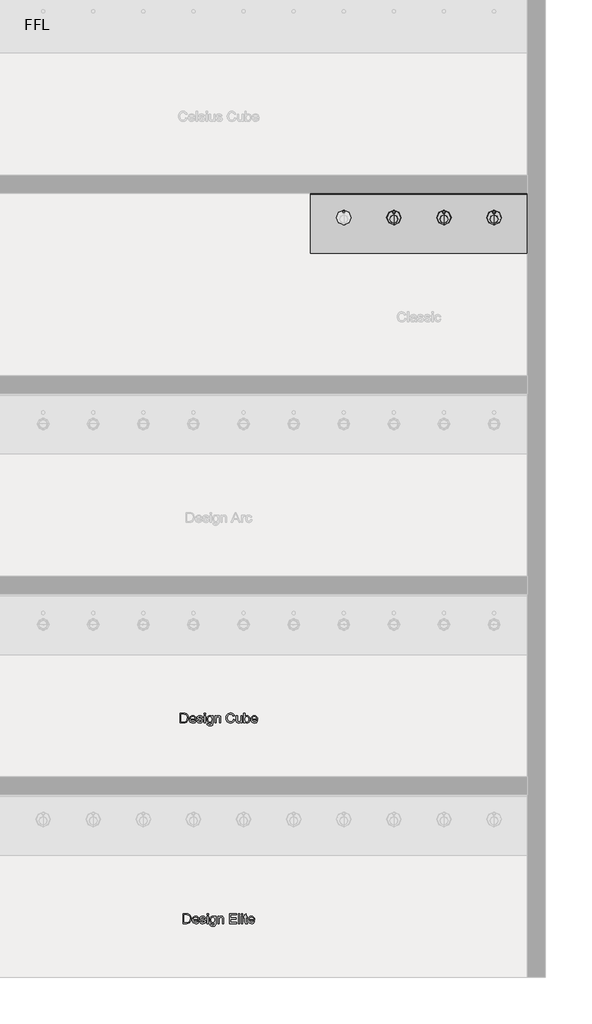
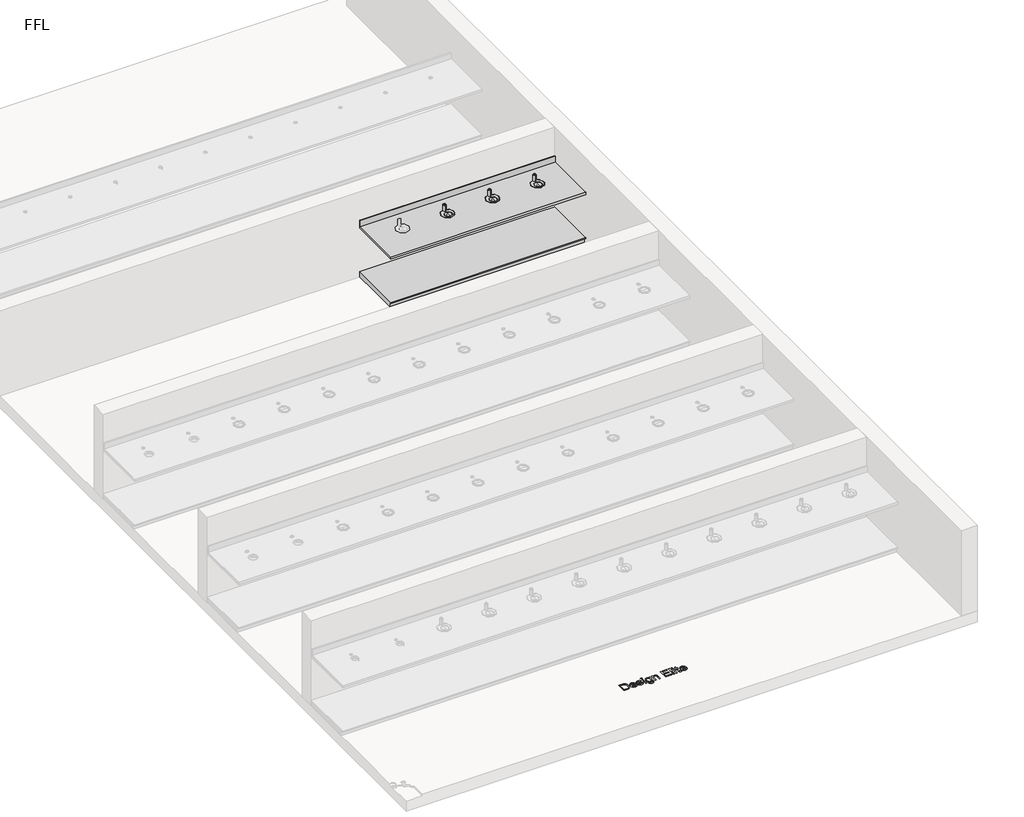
# One storey, part 5 of 6: 3 flow terminals, 2 furniture elements, 2 proxies.
"""IFC4 building model written with IfcOpenShell, lengths in millimetres."""

from ifc_helpers import new_model, si_unit, frame, origin, origin_with_axes, place, context, project, spatial, polyline, circle_curve, outline, extrude, transform, mapped, element, save
from ifc_brep_helpers import plane_surface, revolved_surface, advanced_brep
from components import bright_chrome_13082571, generic_plinth_900mm_89497062

model = new_model("IFC4")

# Units and contexts
model_context = context("Model", 3, world=origin())
ifc_project = project(units=[si_unit("LENGTHUNIT", "METRE", prefix="MILLI")], contexts=[model_context])

# Site, building, storey
site = spatial("IfcSite", under=ifc_project)
building = spatial("IfcBuilding", under=site)
storey = spatial("IfcBuildingStorey", under=building, Name="FFL", Elevation=0.0)

# Proxies
placement = place(None, origin())
element("IfcBuildingElementProxy", 1, Name="150mm Arial", ObjectType="150mm Arial", at=placement, inside=storey, context=model_context, shape_type="SweptSolid", body=[
    extrude(outline(polyline([(-2919.3501351, -75.6314289), (-2919.3501351, 72.0608788), (-2868.4006159, 72.0608788), (-2842.0424428, 69.9334749), (-2820.335712, 59.3685711), (-2810.1223707, 48.1185711), (-2802.8477313, 34.1281865), (-2798.4937649, 17.6678499), (-2797.0424428, -0.9920059), (-2800.9727313, -30.7936885), (-2811.0688851, -52.302102), (-2824.554462, -65.6975347), (-2842.2047024, -73.1073905), (-2865.9486928, -75.6314289), (-2919.3501351, -75.6314289)]), holes=[polyline([(-2900.8885967, -57.1698905), (-2868.2203274, -57.1698905), (-2844.4583082, -54.5016212), (-2830.7563851, -46.9655635), (-2819.524414, -28.630227), (-2815.5039813, -0.7035443), (-2817.4736327, 19.416648), (-2823.382587, 34.2724172), (-2832.1130558, 44.4767441), (-2842.5472505, 50.6426095), (-2868.7251351, 53.5993403), (-2900.8885967, 53.5993403), (-2900.8885967, -57.1698905)])]), origin_with_axes(), (0.0, 0.0, 1.0), 5.0),
    extrude(outline(polyline([(-2698.0280197, -43.3237366), (-2679.9270582, -45.6314289), (-2686.4489933, -59.270251), (-2696.8561447, -69.4655635), (-2710.9141375, -75.8207318), (-2728.3885967, -77.9391212), (-2750.0502553, -74.2837727), (-2766.7179236, -63.317727), (-2777.3459284, -45.7531236), (-2780.8885967, -22.302102), (-2777.3098707, 1.9376816), (-2766.5736928, 20.0656865), (-2750.1313851, 31.369773), (-2729.4342697, 35.1378018), (-2709.3816856, 31.3787874), (-2693.3585486, 20.1017441), (-2682.8522385, 2.009797), (-2679.3501351, -22.1939289), (-2679.4583082, -27.1698905), (-2762.4270582, -27.1698905), (-2759.2314452, -40.989001), (-2751.8080678, -51.1482559), (-2741.094426, -57.395251), (-2728.0280197, -59.4775828), (-2709.9270582, -55.6194097), (-2698.0280197, -43.3237366)]), holes=[polyline([(-2762.4270582, -8.708352), (-2697.8116736, -8.708352), (-2700.3086688, 1.0452538), (-2705.2035005, 8.0224172), (-2715.9667217, 14.5128018), (-2729.5063851, 16.6762634), (-2741.9507962, 14.9500014), (-2752.2407601, 9.7712153), (-2759.3937048, 1.6987994), (-2762.4270582, -8.708352)])]), origin_with_axes(), (0.0, 0.0, 1.0), 5.0),
    extrude(outline(polyline([(-2667.8116736, -43.3237366), (-2649.3501351, -41.0160443), (-2646.4384765, -48.9126789), (-2640.804462, -54.7179674), (-2621.2251351, -59.4775828), (-2602.4030197, -55.114602), (-2596.273212, -44.8742174), (-2602.4390774, -36.5809482), (-2621.4414813, -31.3165251), (-2649.241962, -22.2840732), (-2661.3753755, -11.7371982), (-2665.5039813, 3.1546288), (-2662.1866736, 16.9106384), (-2653.1361928, 27.4214557), (-2641.399414, 32.8841961), (-2625.5160005, 35.1378018), (-2603.0520582, 31.5140038), (-2588.773212, 21.7063115), (-2582.4270582, 5.1378018), (-2600.8885967, 2.8301095), (-2607.8297024, 13.0164076), (-2624.0736928, 16.6762634), (-2641.741962, 13.1786672), (-2647.0424428, 5.0296288), (-2644.8429236, -0.3429674), (-2637.9559043, -4.4174866), (-2622.054462, -8.3477751), (-2594.9571063, -17.0376789), (-2582.3729717, -26.8814289), (-2577.8116736, -42.927102), (-2583.1662409, -60.5953712), (-2598.616962, -73.4138809), (-2621.477539, -77.9391212), (-2640.0923226, -75.7576309), (-2653.6770582, -69.2131597), (-2662.7455678, -58.3778232), (-2667.8116736, -43.3237366)])), origin_with_axes(), (0.0, 0.0, 1.0), 5.0),
    extrude(outline(polyline([(-2557.0424428, 53.5993403), (-2557.0424428, 72.0608788), (-2538.5809043, 72.0608788), (-2538.5809043, 53.5993403), (-2557.0424428, 53.5993403)])), origin_with_axes(), (0.0, 0.0, 1.0), 5.0),
    extrude(outline(polyline([(-2557.0424428, -75.6314289), (-2557.0424428, 32.8301095), (-2538.5809043, 32.8301095), (-2538.5809043, -75.6314289), (-2557.0424428, -75.6314289)])), origin_with_axes(), (0.0, 0.0, 1.0), 5.0),
    extrude(outline(polyline([(-2515.5039813, -84.8621982), (-2497.0424428, -87.1698905), (-2491.0568659, -96.9054674), (-2473.1361928, -101.0160443), (-2454.241962, -96.364602), (-2445.227539, -83.3117174), (-2443.9655197, -61.7852751), (-2456.9643178, -72.1698905), (-2472.8116736, -75.6314289), (-2491.8456279, -71.6019818), (-2506.038837, -59.5136405), (-2514.8684644, -41.7912847), (-2517.8116736, -20.8597943), (-2512.5292217, 7.7519845), (-2506.0658803, 19.3670687), (-2497.2407601, 27.9983788), (-2486.3558442, 33.3529461), (-2473.7131159, 35.1378018), (-2457.2437649, 31.0993403), (-2443.9655197, 18.9839557), (-2443.9655197, 32.8301095), (-2425.5039813, 32.8301095), (-2425.5039813, -60.8117174), (-2426.7660005, -82.4328111), (-2430.5520582, -96.6710924), (-2437.0739933, -106.1137006), (-2446.5436447, -113.3477751), (-2458.7536808, -117.9451309), (-2473.4967697, -119.4775828), (-2490.6737529, -117.3186285), (-2504.1998947, -110.8417655), (-2512.8762769, -100.028965), (-2515.5039813, -84.8621982)]), holes=[polyline([(-2499.3501351, -19.5977751), (-2497.3804837, -36.5313688), (-2491.4715293, -48.1734962), (-2482.5878154, -54.9207919), (-2471.6938851, -57.1698905), (-2460.8810846, -54.9343135), (-2451.9522986, -48.2275828), (-2445.9622144, -36.7341934), (-2443.9655197, -20.1386405), (-2446.0208082, -4.1335323), (-2452.1866736, 7.3914076), (-2461.2461688, 14.3550494), (-2471.9823467, 16.6762634), (-2482.5247144, 14.3911071), (-2491.3633563, 7.5356384), (-2497.3534404, -3.8180275), (-2499.3501351, -19.5977751)])]), origin_with_axes(), (0.0, 0.0, 1.0), 5.0),
    extrude(outline(polyline([(-2397.8116736, -75.6314289), (-2397.8116736, 32.8301095), (-2379.3501351, 32.8301095), (-2379.3501351, 17.6858788), (-2365.2335486, 30.7748211), (-2345.960712, 35.1378018), (-2328.5268178, 31.6221768), (-2316.6277793, 22.3914076), (-2311.0929236, 8.8156865), (-2310.1193659, -9.0328712), (-2310.1193659, -75.6314289), (-2328.5809043, -75.6314289), (-2328.5809043, -11.520852), (-2330.7083082, 4.8132826), (-2338.226337, 13.4490999), (-2350.9006159, 16.6762634), (-2361.7134164, 14.8643643), (-2370.930664, 9.4286672), (-2377.2452673, -1.0731357), (-2379.3501351, -18.083352), (-2379.3501351, -75.6314289), (-2397.8116736, -75.6314289)])), origin_with_axes(), (0.0, 0.0, 1.0), 5.0),
    extrude(outline(polyline([(-2120.8885967, -23.1314289), (-2102.4270582, -27.8910443), (-2110.945688, -49.403965), (-2124.3140774, -65.1206116), (-2141.8741736, -74.7344938), (-2162.9679236, -77.9391212), (-2184.3816856, -75.5142414), (-2201.3873947, -68.239602), (-2214.4222505, -56.3676068), (-2223.9234524, -40.1506597), (-2229.7242337, -21.0851549), (-2231.6578274, -0.6674866), (-2229.4718298, 20.8679701), (-2222.913837, 39.4647249), (-2212.3263971, 54.5323331), (-2198.0520582, 65.4803499), (-2181.1229717, 72.1465158), (-2162.571289, 74.3685711), (-2142.3294019, 71.4929701), (-2125.5941255, 62.8661672), (-2112.8882962, 49.0200134), (-2104.7347505, 30.4863595), (-2123.196289, 26.0873211), (-2129.5965293, 39.5503619), (-2138.3405197, 48.7856384), (-2149.5364332, 54.126684), (-2163.2924428, 55.9070326), (-2179.148813, 53.932874), (-2192.1746543, 48.010398), (-2202.0589692, 38.7615999), (-2208.4907601, 26.8084749), (-2213.196289, -0.6314289), (-2207.6253755, -32.4343135), (-2200.5039813, -44.310816), (-2190.2816255, -52.7528232), (-2178.0265173, -57.7963929), (-2164.8068659, -59.4775828), (-2149.3967096, -57.1879193), (-2136.555664, -50.3189289), (-2126.8606519, -38.942727), (-2120.8885967, -23.1314289)])), origin_with_axes(), (0.0, 0.0, 1.0), 5.0),
    extrude(outline(polyline([(-2010.1193659, -75.6314289), (-2010.1193659, -56.989602), (-2024.5785005, -72.7017414), (-2043.4366736, -77.9391212), (-2060.7984524, -74.2612366), (-2072.7696063, -65.0304674), (-2078.2684043, -51.4367174), (-2079.3501351, -34.2732559), (-2079.3501351, 32.8301095), (-2060.8885967, 32.8301095), (-2060.8885967, -25.583352), (-2059.7708082, -44.4054674), (-2052.4691255, -55.4571501), (-2038.7131159, -59.4775828), (-2023.2984524, -55.3670059), (-2013.1121543, -44.1710924), (-2010.1193659, -23.6001789), (-2010.1193659, 32.8301095), (-1991.6578274, 32.8301095), (-1991.6578274, -75.6314289), (-2010.1193659, -75.6314289)])), origin_with_axes(), (0.0, 0.0, 1.0), 5.0),
    extrude(outline(polyline([(-1947.8116736, -75.6314289), (-1966.273212, -75.6314289), (-1966.273212, 72.0608788), (-1947.8116736, 72.0608788), (-1947.8116736, 17.2892441), (-1934.8849909, 30.6756624), (-1918.821289, 35.1378018), (-1900.3236928, 31.1173691), (-1885.9727313, 19.8132826), (-1877.1566255, 2.2351576), (-1873.9655197, -19.7780635), (-1877.2693058, -44.4234962), (-1887.180664, -62.7588328), (-1901.7254356, -74.1440491), (-1918.929462, -77.9391212), (-1935.3447265, -73.0442895), (-1947.8116736, -58.3597943), (-1947.8116736, -75.6314289)]), holes=[polyline([(-1947.8116736, -20.6434482), (-1946.5496543, -36.0400828), (-1942.7635967, -46.4607559), (-1933.0911207, -56.223376), (-1920.5160005, -59.4775828), (-1909.8609524, -57.0797462), (-1900.7563851, -49.8862366), (-1894.5093899, -37.942126), (-1892.4270582, -21.2924866), (-1894.4237529, -4.3994578), (-1900.413837, 7.4094365), (-1909.23445, 14.3595566), (-1919.7227313, 16.6762634), (-1930.3777793, 14.2784268), (-1939.4823467, 7.0849172), (-1945.7293418, -4.6428472), (-1947.8116736, -20.6434482)])]), origin_with_axes(), (0.0, 0.0, 1.0), 5.0),
    extrude(outline(polyline([(-1777.258789, -43.3237366), (-1759.1578274, -45.6314289), (-1765.6797625, -59.270251), (-1776.086914, -69.4655635), (-1790.1449067, -75.8207318), (-1807.6193659, -77.9391212), (-1829.2810245, -74.2837727), (-1845.9486928, -63.317727), (-1856.5766976, -45.7531236), (-1860.1193659, -22.302102), (-1856.5406399, 1.9376816), (-1845.804462, 20.0656865), (-1829.3621543, 31.369773), (-1808.665039, 35.1378018), (-1788.6124548, 31.3787874), (-1772.5893178, 20.1017441), (-1762.0830077, 2.009797), (-1758.5809043, -22.1939289), (-1758.6890774, -27.1698905), (-1841.6578274, -27.1698905), (-1838.4622144, -40.989001), (-1831.038837, -51.1482559), (-1820.3251952, -57.395251), (-1807.258789, -59.4775828), (-1789.1578274, -55.6194097), (-1777.258789, -43.3237366)]), holes=[polyline([(-1841.6578274, -8.708352), (-1777.0424428, -8.708352), (-1779.539438, 1.0452538), (-1784.4342697, 8.0224172), (-1795.1974909, 14.5128018), (-1808.7371543, 16.6762634), (-1821.1815654, 14.9500014), (-1831.4715293, 9.7712153), (-1838.6244741, 1.6987994), (-1841.6578274, -8.708352)])]), origin_with_axes(), (0.0, 0.0, 1.0), 5.0),
])
element("IfcBuildingElementProxy", 2, Name="150mm Arial", ObjectType="150mm Arial", at=placement, inside=storey, context=model_context, shape_type="SweptSolid", body=[
    extrude(outline(polyline([(-2875.5039813, -3075.6314289), (-2875.5039813, -2927.9391212), (-2824.554462, -2927.9391212), (-2798.196289, -2930.0665251), (-2776.4895582, -2940.6314289), (-2766.2762168, -2951.8814289), (-2759.0015774, -2965.8718135), (-2754.6476111, -2982.3321501), (-2753.196289, -3000.9920059), (-2757.1265774, -3030.7936885), (-2767.2227313, -3052.302102), (-2780.7083082, -3065.6975347), (-2798.3585486, -3073.1073905), (-2822.102539, -3075.6314289), (-2875.5039813, -3075.6314289)]), holes=[polyline([(-2857.0424428, -3057.1698905), (-2824.3741736, -3057.1698905), (-2800.6121543, -3054.5016212), (-2786.9102313, -3046.9655635), (-2775.6782601, -3028.630227), (-2771.6578274, -3000.7035443), (-2773.6274789, -2980.583352), (-2779.5364332, -2965.7275828), (-2788.2669019, -2955.5232559), (-2798.7010967, -2949.3573905), (-2824.8789813, -2946.4006597), (-2857.0424428, -2946.4006597), (-2857.0424428, -3057.1698905)])]), origin_with_axes(), (0.0, 0.0, 1.0), 5.0),
    extrude(outline(polyline([(-2654.1818659, -3043.3237366), (-2636.0809043, -3045.6314289), (-2642.6028394, -3059.270251), (-2653.0099909, -3069.4655635), (-2667.0679837, -3075.8207318), (-2684.5424428, -3077.9391212), (-2706.2041015, -3074.2837727), (-2722.8717697, -3063.317727), (-2733.4997745, -3045.7531236), (-2737.0424428, -3022.302102), (-2733.4637168, -2998.0623184), (-2722.727539, -2979.9343135), (-2706.2852313, -2968.630227), (-2685.5881159, -2964.8621982), (-2665.5355317, -2968.6212126), (-2649.5123947, -2979.8982559), (-2639.0060846, -2997.990203), (-2635.5039813, -3022.1939289), (-2635.6121543, -3027.1698905), (-2718.5809043, -3027.1698905), (-2715.3852914, -3040.989001), (-2707.961914, -3051.1482559), (-2697.2482721, -3057.395251), (-2684.1818659, -3059.4775828), (-2666.0809043, -3055.6194097), (-2654.1818659, -3043.3237366)]), holes=[polyline([(-2718.5809043, -3008.708352), (-2653.9655197, -3008.708352), (-2656.4625149, -2998.9547462), (-2661.3573467, -2991.9775828), (-2672.1205678, -2985.4871982), (-2685.6602313, -2983.3237366), (-2698.1046423, -2985.0499986), (-2708.3946063, -2990.2287847), (-2715.547551, -2998.3012006), (-2718.5809043, -3008.708352)])]), origin_with_axes(), (0.0, 0.0, 1.0), 5.0),
    extrude(outline(polyline([(-2623.9655197, -3043.3237366), (-2605.5039813, -3041.0160443), (-2602.5923226, -3048.9126789), (-2596.9583082, -3054.7179674), (-2577.3789813, -3059.4775828), (-2558.5568659, -3055.114602), (-2552.4270582, -3044.8742174), (-2558.5929236, -3036.5809482), (-2577.5953274, -3031.3165251), (-2605.3958082, -3022.2840732), (-2617.5292217, -3011.7371982), (-2621.6578274, -2996.8453712), (-2618.3405197, -2983.0893616), (-2609.290039, -2972.5785443), (-2597.5532601, -2967.1158039), (-2581.6698467, -2964.8621982), (-2559.2059043, -2968.4859962), (-2544.9270582, -2978.2936885), (-2538.5809043, -2994.8621982), (-2557.0424428, -2997.1698905), (-2563.9835486, -2986.9835924), (-2580.227539, -2983.3237366), (-2597.8958082, -2986.8213328), (-2603.196289, -2994.9703712), (-2600.9967697, -3000.3429674), (-2594.1097505, -3004.4174866), (-2578.2083082, -3008.3477751), (-2551.1109524, -3017.0376789), (-2538.5268178, -3026.8814289), (-2533.9655197, -3042.927102), (-2539.320087, -3060.5953712), (-2554.7708082, -3073.4138809), (-2577.6313851, -3077.9391212), (-2596.2461688, -3075.7576309), (-2609.8309043, -3069.2131597), (-2618.899414, -3058.3778232), (-2623.9655197, -3043.3237366)])), origin_with_axes(), (0.0, 0.0, 1.0), 5.0),
    extrude(outline(polyline([(-2513.196289, -2946.4006597), (-2513.196289, -2927.9391212), (-2494.7347505, -2927.9391212), (-2494.7347505, -2946.4006597), (-2513.196289, -2946.4006597)])), origin_with_axes(), (0.0, 0.0, 1.0), 5.0),
    extrude(outline(polyline([(-2513.196289, -3075.6314289), (-2513.196289, -2967.1698905), (-2494.7347505, -2967.1698905), (-2494.7347505, -3075.6314289), (-2513.196289, -3075.6314289)])), origin_with_axes(), (0.0, 0.0, 1.0), 5.0),
    extrude(outline(polyline([(-2471.6578274, -3084.8621982), (-2453.196289, -3087.1698905), (-2447.210712, -3096.9054674), (-2429.290039, -3101.0160443), (-2410.3958082, -3096.364602), (-2401.3813851, -3083.3117174), (-2400.1193659, -3061.7852751), (-2413.118164, -3072.1698905), (-2428.9655197, -3075.6314289), (-2447.9994741, -3071.6019818), (-2462.1926832, -3059.5136405), (-2471.0223106, -3041.7912847), (-2473.9655197, -3020.8597943), (-2468.6830678, -2992.2480155), (-2462.2197265, -2980.6329313), (-2453.3946063, -2972.0016212), (-2442.5096904, -2966.6470539), (-2429.866962, -2964.8621982), (-2413.3976111, -2968.9006597), (-2400.1193659, -2981.0160443), (-2400.1193659, -2967.1698905), (-2381.6578274, -2967.1698905), (-2381.6578274, -3060.8117174), (-2382.9198467, -3082.4328111), (-2386.7059043, -3096.6710924), (-2393.2278394, -3106.1137006), (-2402.6974909, -3113.3477751), (-2414.9075269, -3117.9451309), (-2429.6506159, -3119.4775828), (-2446.8275991, -3117.3186285), (-2460.3537409, -3110.8417655), (-2469.0301231, -3100.028965), (-2471.6578274, -3084.8621982)]), holes=[polyline([(-2455.5039813, -3019.5977751), (-2453.5343298, -3036.5313688), (-2447.6253755, -3048.1734962), (-2438.7416616, -3054.9207919), (-2427.8477313, -3057.1698905), (-2417.0349308, -3054.9343135), (-2408.1061447, -3048.2275828), (-2402.1160606, -3036.7341934), (-2400.1193659, -3020.1386405), (-2402.1746543, -3004.1335323), (-2408.3405197, -2992.6085924), (-2417.4000149, -2985.6449506), (-2428.1361928, -2983.3237366), (-2438.6785606, -2985.6088929), (-2447.5172024, -2992.4643616), (-2453.5072866, -3003.8180275), (-2455.5039813, -3019.5977751)])]), origin_with_axes(), (0.0, 0.0, 1.0), 5.0),
    extrude(outline(polyline([(-2353.9655197, -3075.6314289), (-2353.9655197, -2967.1698905), (-2335.5039813, -2967.1698905), (-2335.5039813, -2982.3141212), (-2321.3873947, -2969.2251789), (-2302.1145582, -2964.8621982), (-2284.680664, -2968.3778232), (-2272.7816255, -2977.6085924), (-2267.2467697, -2991.1843135), (-2266.273212, -3009.0328712), (-2266.273212, -3075.6314289), (-2284.7347505, -3075.6314289), (-2284.7347505, -3011.520852), (-2286.8621543, -2995.1867174), (-2294.3801832, -2986.5509001), (-2307.054462, -2983.3237366), (-2317.8672625, -2985.1356357), (-2327.0845101, -2990.5713328), (-2333.3991135, -3001.0731357), (-2335.5039813, -3018.083352), (-2335.5039813, -3075.6314289), (-2353.9655197, -3075.6314289)])), origin_with_axes(), (0.0, 0.0, 1.0), 5.0),
    extrude(outline(polyline([(-2180.8885967, -3075.6314289), (-2180.8885967, -2927.9391212), (-2074.7347505, -2927.9391212), (-2074.7347505, -2946.4006597), (-2162.4270582, -2946.4006597), (-2162.4270582, -2990.2468135), (-2079.3501351, -2990.2468135), (-2079.3501351, -3008.708352), (-2162.4270582, -3008.708352), (-2162.4270582, -3057.1698905), (-2072.4270582, -3057.1698905), (-2072.4270582, -3075.6314289), (-2180.8885967, -3075.6314289)])), origin_with_axes(), (0.0, 0.0, 1.0), 5.0),
    extrude(outline(polyline([(-2047.0424428, -3075.6314289), (-2047.0424428, -2927.9391212), (-2028.5809043, -2927.9391212), (-2028.5809043, -3075.6314289), (-2047.0424428, -3075.6314289)])), origin_with_axes(), (0.0, 0.0, 1.0), 5.0),
    extrude(outline(polyline([(-2000.8885967, -3075.6314289), (-2000.8885967, -2967.1698905), (-1982.4270582, -2967.1698905), (-1982.4270582, -3075.6314289), (-2000.8885967, -3075.6314289)])), origin_with_axes(), (0.0, 0.0, 1.0), 5.0),
    extrude(outline(polyline([(-2000.8885967, -2946.4006597), (-2000.8885967, -2927.9391212), (-1982.4270582, -2927.9391212), (-1982.4270582, -2946.4006597), (-2000.8885967, -2946.4006597)])), origin_with_axes(), (0.0, 0.0, 1.0), 5.0),
    extrude(outline(polyline([(-1915.5039813, -3060.2347943), (-1913.196289, -3076.1722943), (-1927.0063851, -3077.9391212), (-1942.4751351, -3074.8742174), (-1950.1914813, -3066.833352), (-1952.4270582, -3045.8838328), (-1952.4270582, -2985.6314289), (-1966.273212, -2985.6314289), (-1966.273212, -2967.1698905), (-1952.4270582, -2967.1698905), (-1952.4270582, -2940.8117174), (-1933.9655197, -2929.958352), (-1933.9655197, -2967.1698905), (-1915.5039813, -2967.1698905), (-1915.5039813, -2985.6314289), (-1933.9655197, -2985.6314289), (-1933.9655197, -3045.3429674), (-1932.991962, -3054.8621982), (-1929.836914, -3058.2335924), (-1923.5448467, -3059.4775828), (-1915.5039813, -3060.2347943)])), origin_with_axes(), (0.0, 0.0, 1.0), 5.0),
    extrude(outline(polyline([(-1821.1049428, -3043.3237366), (-1803.0039813, -3045.6314289), (-1809.5259164, -3059.270251), (-1819.9330678, -3069.4655635), (-1833.9910606, -3075.8207318), (-1851.4655197, -3077.9391212), (-1873.1271784, -3074.2837727), (-1889.7948467, -3063.317727), (-1900.4228515, -3045.7531236), (-1903.9655197, -3022.302102), (-1900.3867938, -2998.0623184), (-1889.6506159, -2979.9343135), (-1873.2083082, -2968.630227), (-1852.5111928, -2964.8621982), (-1832.4586087, -2968.6212126), (-1816.4354717, -2979.8982559), (-1805.9291616, -2997.990203), (-1802.4270582, -3022.1939289), (-1802.5352313, -3027.1698905), (-1885.5039813, -3027.1698905), (-1882.3083683, -3040.989001), (-1874.8849909, -3051.1482559), (-1864.1713491, -3057.395251), (-1851.1049428, -3059.4775828), (-1833.0039813, -3055.6194097), (-1821.1049428, -3043.3237366)]), holes=[polyline([(-1885.5039813, -3008.708352), (-1820.8885967, -3008.708352), (-1823.3855918, -2998.9547462), (-1828.2804236, -2991.9775828), (-1839.0436447, -2985.4871982), (-1852.5833082, -2983.3237366), (-1865.0277192, -2985.0499986), (-1875.3176832, -2990.2287847), (-1882.4706279, -2998.3012006), (-1885.5039813, -3008.708352)])]), origin_with_axes(), (0.0, 0.0, 1.0), 5.0),
])

# Flow terminals
bright_chrome_shape = bright_chrome_13082571(model_context)
element("IfcFlowTerminal", 3, ObjectType="z_PlumFixt_Zip Australia_Font and Tap Riser : Brushed Chrome", at=placement, inside=storey, context=model_context, shape_type="MappedRepresentation", body=[
    mapped(bright_chrome_shape, transform((279.2647071, 7467.9893304, 900.0), x_axis=(1.0, 0.0, 0.0), y_axis=(0.0, 1.0, 0.0), z_axis=(0.0, 0.0, 1.0))),
])
element("IfcFlowTerminal", 4, ObjectType="z_PlumFixt_Zip Australia_Font and Tap Riser : Gloss Black", at=placement, inside=storey, context=model_context, shape_type="MappedRepresentation", body=[
    mapped(bright_chrome_shape, transform((1029.2647071, 7467.9893304, 900.0), x_axis=(1.0, 0.0, 0.0), y_axis=(0.0, 1.0, 0.0), z_axis=(0.0, 0.0, 1.0))),
])
element("IfcFlowTerminal", 5, ObjectType="z_PlumFixt_Zip Australia_Font and Tap Riser : Matte Black", at=placement, inside=storey, context=model_context, shape_type="MappedRepresentation", body=[
    mapped(bright_chrome_shape, transform((1779.2647071, 7467.9893304, 900.0), x_axis=(1.0, 0.0, 0.0), y_axis=(0.0, 1.0, 0.0), z_axis=(0.0, 0.0, 1.0))),
])

# Furniture
element("IfcFurniture", 6, ObjectType="Counter Top : 900mm Depth", at=placement, inside=storey, context=model_context, shape_type="AdvancedBrep", body=[
    advanced_brep(
    [(-969.7352929, 6948.2393304, 900.0), (2280.2657919, 6948.2393304, 900.0), (2280.2657919, 7829.1893304, 900.0), (-969.7352929, 7829.1893304, 900.0), (1780.2647071, 7407.6212903, 900.0), (1780.2647071, 7515.6212903, 900.0), (1780.2647071, 7550.7393304, 900.0), (1780.2647071, 7585.7393304, 900.0), (1030.2647071, 7407.6212903, 900.0), (1030.2647071, 7515.6212903, 900.0), (1030.2647071, 7550.7393304, 900.0), (1030.2647071, 7585.7393304, 900.0), (280.2647071, 7550.7393304, 900.0), (280.2647071, 7585.7393304, 900.0), (-469.7352929, 7407.6212903, 900.0), (-469.7352929, 7515.6212903, 900.0), (-469.7352929, 7550.7393304, 900.0), (-469.7352929, 7585.7393304, 900.0), (280.2647071, 7407.6212903, 900.0), (280.2647071, 7515.6212903, 900.0), (2280.2657919, 7848.2393304, 860.0), (2280.2657919, 6948.2393304, 860.0), (-969.7352929, 6948.2393304, 860.0), (-969.7352929, 7848.2393304, 860.0), (1780.2647071, 7515.6212903, 860.0), (1780.2647071, 7407.6212903, 860.0), (1780.2647071, 7585.7393304, 860.0), (1780.2647071, 7550.7393304, 860.0), (1030.2647071, 7515.6212903, 860.0), (1030.2647071, 7407.6212903, 860.0), (1030.2647071, 7585.7393304, 860.0), (1030.2647071, 7550.7393304, 860.0), (280.2647071, 7585.7393304, 860.0), (280.2647071, 7550.7393304, 860.0), (-469.7352929, 7515.6212903, 860.0), (-469.7352929, 7407.6212903, 860.0), (-469.7352929, 7585.7393304, 860.0), (-469.7352929, 7550.7393304, 860.0), (280.2647071, 7515.6212903, 860.0), (280.2647071, 7407.6212903, 860.0), (-969.7352929, 7848.2393304, 1001.6), (2280.2657919, 7848.2393304, 1001.6), (-969.7352929, 7829.1893304, 1001.6), (2280.2657919, 7829.1893304, 1001.6)],
    [
        (0, 1),
        (1, 2),
        (2, 3),
        (3, 0),
        (4, 5, circle_curve(frame((1780.2647071, 7461.6212903, 900.0), z_axis=(0.0, 0.0, -1.0), x_axis=(0.0, -1.0, 0.0)), 54.0)),
        (5, 4, circle_curve(frame((1780.2647071, 7461.6212903, 900.0), z_axis=(0.0, 0.0, -1.0), x_axis=(0.0, -1.0, 0.0)), 54.0)),
        (6, 7, circle_curve(frame((1780.2647071, 7568.2393304, 900.0), z_axis=(0.0, 0.0, -1.0), x_axis=(0.0, -1.0, 0.0)), 17.5)),
        (7, 6, circle_curve(frame((1780.2647071, 7568.2393304, 900.0), z_axis=(0.0, 0.0, -1.0), x_axis=(0.0, -1.0, 0.0)), 17.5)),
        (8, 9, circle_curve(frame((1030.2647071, 7461.6212903, 900.0), z_axis=(0.0, 0.0, -1.0), x_axis=(0.0, -1.0, 0.0)), 54.0)),
        (9, 8, circle_curve(frame((1030.2647071, 7461.6212903, 900.0), z_axis=(0.0, 0.0, -1.0), x_axis=(0.0, -1.0, 0.0)), 54.0)),
        (10, 11, circle_curve(frame((1030.2647071, 7568.2393304, 900.0), z_axis=(0.0, 0.0, -1.0), x_axis=(0.0, -1.0, 0.0)), 17.5)),
        (11, 10, circle_curve(frame((1030.2647071, 7568.2393304, 900.0), z_axis=(0.0, 0.0, -1.0), x_axis=(0.0, -1.0, 0.0)), 17.5)),
        (12, 13, circle_curve(frame((280.2647071, 7568.2393304, 900.0), z_axis=(0.0, 0.0, -1.0), x_axis=(0.0, -1.0, 0.0)), 17.5)),
        (13, 12, circle_curve(frame((280.2647071, 7568.2393304, 900.0), z_axis=(0.0, 0.0, -1.0), x_axis=(0.0, -1.0, 0.0)), 17.5)),
        (14, 15, circle_curve(frame((-469.7352929, 7461.6212903, 900.0), z_axis=(0.0, 0.0, -1.0), x_axis=(0.0, -1.0, 0.0)), 54.0)),
        (15, 14, circle_curve(frame((-469.7352929, 7461.6212903, 900.0), z_axis=(0.0, 0.0, -1.0), x_axis=(0.0, -1.0, 0.0)), 54.0)),
        (16, 17, circle_curve(frame((-469.7352929, 7568.2393304, 900.0), z_axis=(0.0, 0.0, -1.0), x_axis=(0.0, -1.0, 0.0)), 17.5)),
        (17, 16, circle_curve(frame((-469.7352929, 7568.2393304, 900.0), z_axis=(0.0, 0.0, -1.0), x_axis=(0.0, -1.0, 0.0)), 17.5)),
        (18, 19, circle_curve(frame((280.2647071, 7461.6212903, 900.0), z_axis=(0.0, 0.0, -1.0), x_axis=(0.0, -1.0, 0.0)), 54.0)),
        (19, 18, circle_curve(frame((280.2647071, 7461.6212903, 900.0), z_axis=(0.0, 0.0, -1.0), x_axis=(0.0, -1.0, 0.0)), 54.0)),
        (20, 21),
        (21, 22),
        (22, 23),
        (23, 20),
        (24, 25, circle_curve(frame((1780.2647071, 7461.6212903, 860.0), z_axis=(0.0, 0.0, 1.0), x_axis=(0.0, -1.0, 0.0)), 54.0)),
        (25, 24, circle_curve(frame((1780.2647071, 7461.6212903, 860.0), z_axis=(0.0, 0.0, 1.0), x_axis=(0.0, -1.0, 0.0)), 54.0)),
        (26, 27, circle_curve(frame((1780.2647071, 7568.2393304, 860.0), z_axis=(0.0, 0.0, 1.0), x_axis=(0.0, -1.0, 0.0)), 17.5)),
        (27, 26, circle_curve(frame((1780.2647071, 7568.2393304, 860.0), z_axis=(0.0, 0.0, 1.0), x_axis=(0.0, -1.0, 0.0)), 17.5)),
        (28, 29, circle_curve(frame((1030.2647071, 7461.6212903, 860.0), z_axis=(0.0, 0.0, 1.0), x_axis=(0.0, -1.0, 0.0)), 54.0)),
        (29, 28, circle_curve(frame((1030.2647071, 7461.6212903, 860.0), z_axis=(0.0, 0.0, 1.0), x_axis=(0.0, -1.0, 0.0)), 54.0)),
        (30, 31, circle_curve(frame((1030.2647071, 7568.2393304, 860.0), z_axis=(0.0, 0.0, 1.0), x_axis=(0.0, -1.0, 0.0)), 17.5)),
        (31, 30, circle_curve(frame((1030.2647071, 7568.2393304, 860.0), z_axis=(0.0, 0.0, 1.0), x_axis=(0.0, -1.0, 0.0)), 17.5)),
        (32, 33, circle_curve(frame((280.2647071, 7568.2393304, 860.0), z_axis=(0.0, 0.0, 1.0), x_axis=(0.0, -1.0, 0.0)), 17.5)),
        (33, 32, circle_curve(frame((280.2647071, 7568.2393304, 860.0), z_axis=(0.0, 0.0, 1.0), x_axis=(0.0, -1.0, 0.0)), 17.5)),
        (34, 35, circle_curve(frame((-469.7352929, 7461.6212903, 860.0), z_axis=(0.0, 0.0, 1.0), x_axis=(0.0, -1.0, 0.0)), 54.0)),
        (35, 34, circle_curve(frame((-469.7352929, 7461.6212903, 860.0), z_axis=(0.0, 0.0, 1.0), x_axis=(0.0, -1.0, 0.0)), 54.0)),
        (36, 37, circle_curve(frame((-469.7352929, 7568.2393304, 860.0), z_axis=(0.0, 0.0, 1.0), x_axis=(0.0, -1.0, 0.0)), 17.5)),
        (37, 36, circle_curve(frame((-469.7352929, 7568.2393304, 860.0), z_axis=(0.0, 0.0, 1.0), x_axis=(0.0, -1.0, 0.0)), 17.5)),
        (38, 39, circle_curve(frame((280.2647071, 7461.6212903, 860.0), z_axis=(0.0, 0.0, 1.0), x_axis=(0.0, -1.0, 0.0)), 54.0)),
        (39, 38, circle_curve(frame((280.2647071, 7461.6212903, 860.0), z_axis=(0.0, 0.0, 1.0), x_axis=(0.0, -1.0, 0.0)), 54.0)),
        (23, 40),
        (40, 41),
        (41, 20),
        (3, 42),
        (42, 40),
        (22, 0),
        (21, 1),
        (41, 43),
        (43, 2),
        (42, 43),
        (24, 5),
        (4, 25),
        (26, 7),
        (6, 27),
        (28, 9),
        (8, 29),
        (30, 11),
        (10, 31),
        (38, 19),
        (18, 39),
        (32, 13),
        (12, 33),
        (34, 15),
        (14, 35),
        (36, 17),
        (16, 37),
    ],
    [
        plane_surface(frame((-969.7352929, 7848.2393304, 900.0), z_axis=(0.0, 0.0, 1.0), x_axis=(-1.0, 0.0, 0.0))),
        plane_surface(frame((-969.7352929, 7848.2393304, 860.0), z_axis=(0.0, 0.0, -1.0), x_axis=(1.0, 0.0, 0.0))),
        plane_surface(frame((2280.2657919, 7848.2393304, 900.0), z_axis=(0.0, 1.0, 0.0), x_axis=(0.0, 0.0, -1.0))),
        plane_surface(frame((-969.7352929, 7848.2393304, 900.0), z_axis=(-1.0, 0.0, 0.0), x_axis=(0.0, 0.0, -1.0))),
        plane_surface(frame((-969.7352929, 6948.2393304, 900.0), z_axis=(0.0, -1.0, 0.0), x_axis=(0.0, 0.0, -1.0))),
        plane_surface(frame((2280.2657919, 6948.2393304, 900.0), z_axis=(1.0, 0.0, 0.0), x_axis=(0.0, 0.0, -1.0))),
        plane_surface(frame((-969.7352929, 7848.2393304, 1001.6), z_axis=(0.0, 0.0, 1.0), x_axis=(0.0, -1.0, 0.0))),
        plane_surface(frame((-969.7352929, 7829.1893304, 1001.6), z_axis=(0.0, -1.0, 0.0), x_axis=(0.0, 0.0, -1.0))),
        revolved_surface(polyline([(1780.2647071, 7407.6212903, 900.0), (1780.2647071, 7407.6212903, 860.0)]), (1780.2647071, 7461.6212903, 700.0), (0.0, 0.0, 1.0)),
        revolved_surface(polyline([(1780.2647071, 7550.7393304, 900.0), (1780.2647071, 7550.7393304, 860.0)]), (1780.2647071, 7568.2393304, 700.0), (0.0, 0.0, 1.0)),
        revolved_surface(polyline([(1030.2647071, 7407.6212903, 900.0), (1030.2647071, 7407.6212903, 860.0)]), (1030.2647071, 7461.6212903, 700.0), (0.0, 0.0, 1.0)),
        revolved_surface(polyline([(1030.2647071, 7550.7393304, 900.0), (1030.2647071, 7550.7393304, 860.0)]), (1030.2647071, 7568.2393304, 700.0), (0.0, 0.0, 1.0)),
        revolved_surface(polyline([(280.2647071, 7407.6212903, 900.0), (280.2647071, 7407.6212903, 860.0)]), (280.2647071, 7461.6212903, 700.0), (0.0, 0.0, 1.0)),
        revolved_surface(polyline([(280.2647071, 7550.7393304, 900.0), (280.2647071, 7550.7393304, 860.0)]), (280.2647071, 7568.2393304, 700.0), (0.0, 0.0, 1.0)),
        revolved_surface(polyline([(-469.7352929, 7407.6212903, 900.0), (-469.7352929, 7407.6212903, 860.0)]), (-469.7352929, 7461.6212903, 700.0), (0.0, 0.0, 1.0)),
        revolved_surface(polyline([(-469.7352929, 7550.7393304, 900.0), (-469.7352929, 7550.7393304, 860.0)]), (-469.7352929, 7568.2393304, 700.0), (0.0, 0.0, 1.0)),
    ],
    [
        (0, [[1, 2, 3, 4], [5, 6], [7, 8], [9, 10], [11, 12], [13, 14], [15, 16], [17, 18], [19, 20]]),
        (1, [[21, 22, 23, 24], [25, 26], [27, 28], [29, 30], [31, 32], [33, 34], [35, 36], [37, 38], [39, 40]]),
        (2, [[-24, 41, 42, 43]]),
        (3, [[-4, 44, 45, -41, -23, 46]]),
        (4, [[-1, -46, -22, 47]]),
        (5, [[-2, -47, -21, -43, 48, 49]]),
        (6, [[-42, -45, 50, -48]]),
        (7, [[-3, -49, -50, -44]]),
        (8, [[51, -5, 52, -25]]),
        (8, [[-51, -26, -52, -6]]),
        (9, [[53, -7, 54, -27]]),
        (9, [[-53, -28, -54, -8]]),
        (10, [[55, -9, 56, -29]]),
        (10, [[-55, -30, -56, -10]]),
        (11, [[57, -11, 58, -31]]),
        (11, [[-57, -32, -58, -12]]),
        (12, [[59, -19, 60, -39]]),
        (12, [[-59, -40, -60, -20]]),
        (13, [[61, -13, 62, -33]]),
        (13, [[-61, -34, -62, -14]]),
        (14, [[63, -15, 64, -35]]),
        (14, [[-63, -36, -64, -16]]),
        (15, [[65, -17, 66, -37]]),
        (15, [[-65, -38, -66, -18]]),
    ],
),
])
generic_plinth_900mm_shape = generic_plinth_900mm_89497062(model_context)
element("IfcFurniture", 7, ObjectType="Generic Plinth : 900mm", at=placement, inside=storey, context=model_context, shape_type="MappedRepresentation", body=[
    mapped(generic_plinth_900mm_shape, transform((636.5275446, 7848.2393304, 0.0), x_axis=(1.0, 0.0, 0.0), y_axis=(0.0, 1.0, 0.0), z_axis=(0.0, 0.0, 1.0))),
])

save(model, "model.ifc")
